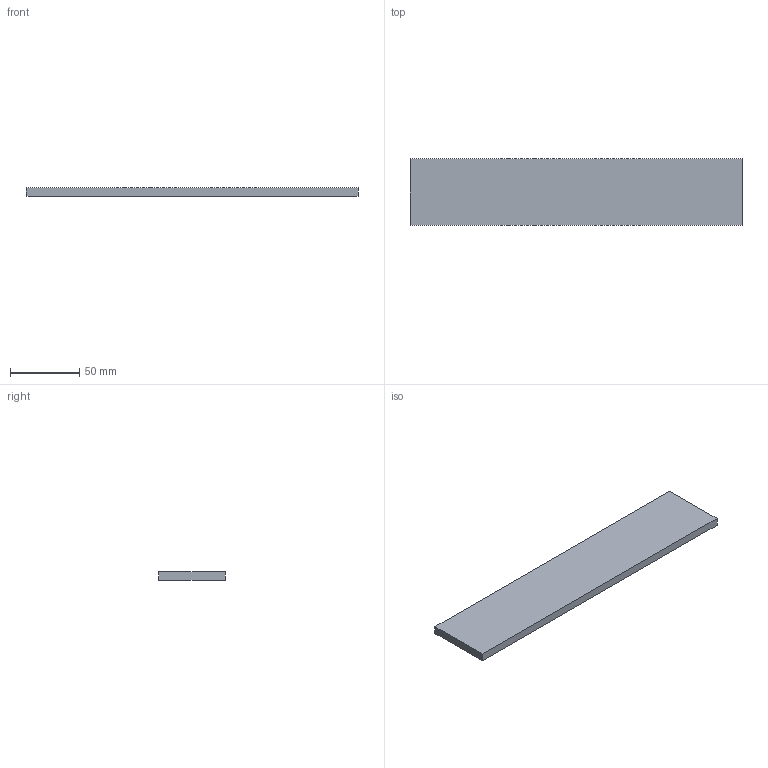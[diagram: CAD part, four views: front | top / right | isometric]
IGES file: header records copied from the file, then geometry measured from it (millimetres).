
Start section:  PTC IGES file: j3-30-37k-frontcover2.igs
Global section: file name: j3-30-37k-frontcover2.igs; native system: Pro/ENGINEER by Parametric Technology Corporation; preprocessor: 2006420; author: JE18792; organization: Unknown; date: 20101129.152801; units: millimetre
Bounding box: 239.8 x 48.3 x 6 mm (x, y, z)
Volume: 21222.4 mm3; surface area: 29160.8 mm2
Topology: 1 solids, 1 shells, 11 faces, 24 edges, 16 vertices
Faces by surface type: bspline 11
